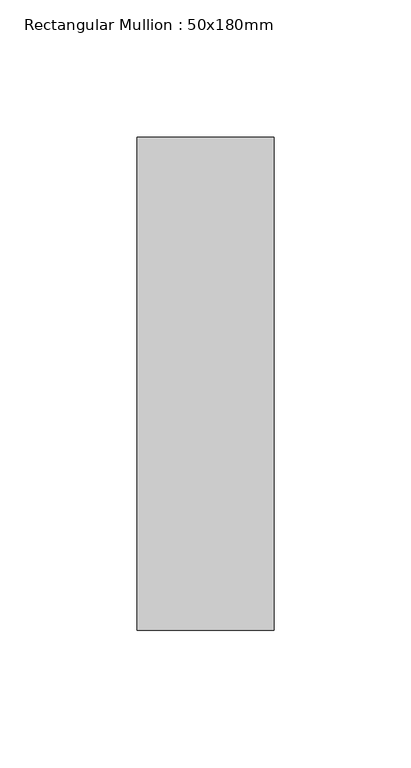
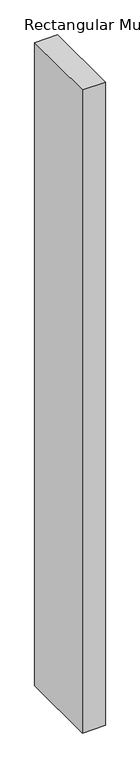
"""IFC4 building model written with IfcOpenShell, lengths in millimetres: member geometry, Rectangular Mullion : 50x180mm."""

from ifc_helpers import new_model, si_unit, frame, origin, place, context, project, spatial, polyline, outline, extrude, source, transform, mapped, element, save


def rectangular_mullion_50x180mm_69a7fca8(model_context):
    return source(origin(), model_context, "Body", "SweptSolid", [
        extrude(outline(polyline([(0.0, 90.0), (0.0, -90.0), (-50.0, -90.0), (-50.0, 90.0), (0.0, 90.0)])), frame((0.0, 0.0, -1482.8124999), z_axis=(0.0, 0.0, 1.0), x_axis=(1.0, 0.0, 0.0)), (0.0, 0.0, 1.0), 1482.8124999),
    ])


if __name__ == "__main__":
    model = new_model("IFC4")
    model_context = context("Model", 3, world=origin())
    ifc_project = project(units=[si_unit("LENGTHUNIT", "METRE", prefix="MILLI")], contexts=[model_context])
    site = spatial("IfcSite", under=ifc_project)
    building = spatial("IfcBuilding", under=site)
    placement = place(None, origin())
    rectangular_mullion_50x180mm_shape = rectangular_mullion_50x180mm_69a7fca8(model_context)
    element("IfcMember", 1, ObjectType="Rectangular Mullion : 50x180mm", at=placement, inside=building, context=model_context, shape_type="MappedRepresentation", body=[
        mapped(rectangular_mullion_50x180mm_shape, transform((0.0, 0.0, 0.0), x_axis=(1.0, 0.0, 0.0), y_axis=(0.0, 1.0, 0.0), z_axis=(0.0, 0.0, 1.0))),
    ])
    save(model, "model.ifc")
